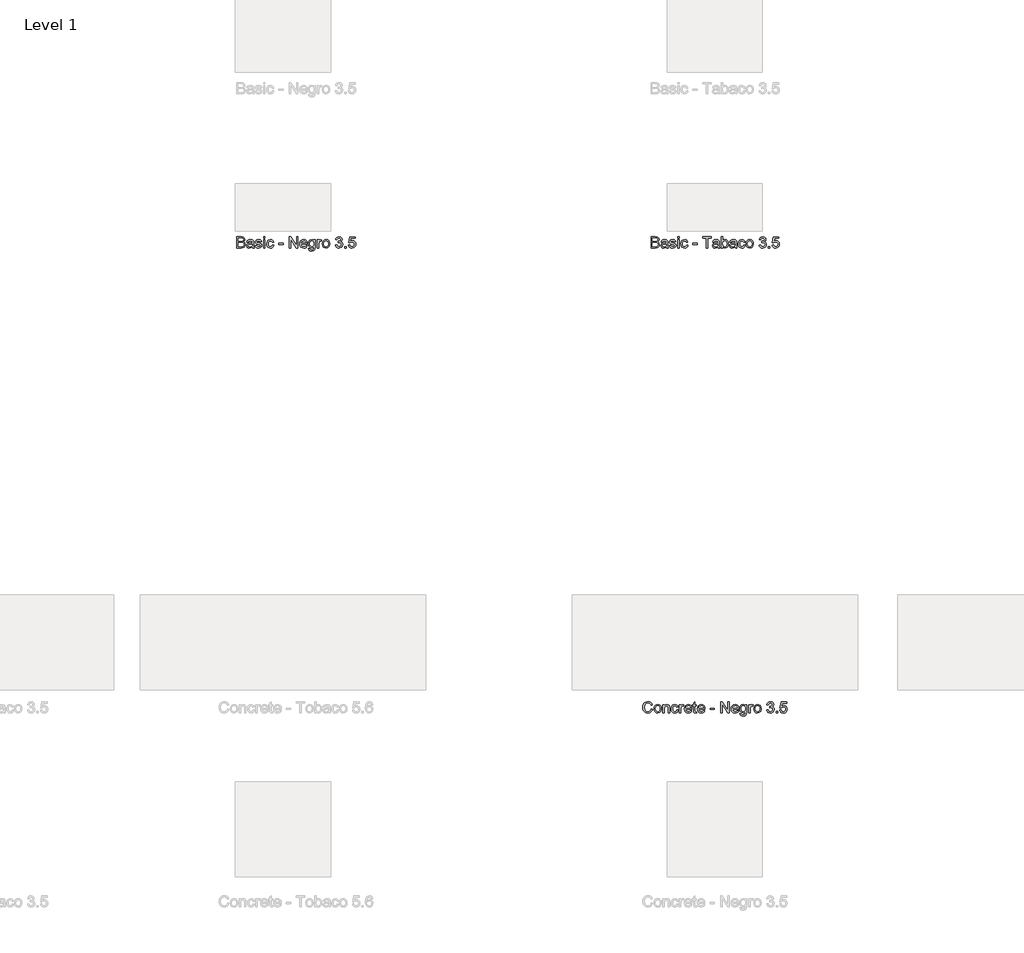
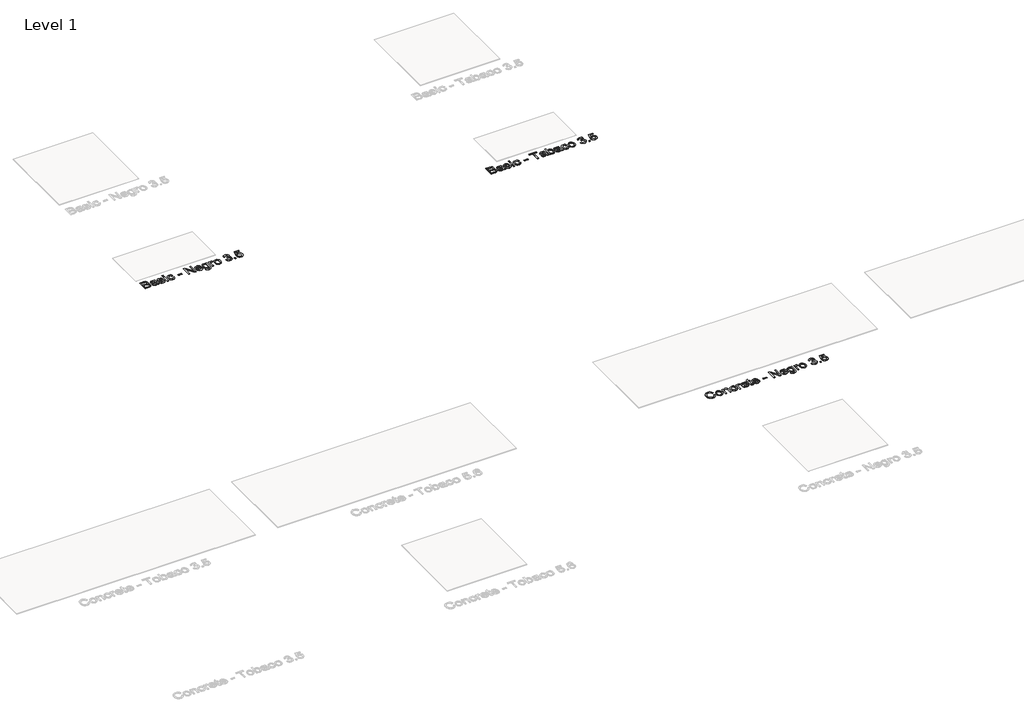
# One storey, part 56 of 80: 3 proxies.
"""IFC4 building model written with IfcOpenShell, lengths in millimetres."""

from ifc_helpers import new_model, si_unit, origin, origin_with_axes, place, context, project, spatial, polyline, outline, extrude, element, save

model = new_model("IFC4")

# Units and contexts
model_context = context("Model", 3, world=origin())
ifc_project = project(units=[si_unit("LENGTHUNIT", "METRE", prefix="MILLI")], contexts=[model_context])

# Site, building, storey
site = spatial("IfcSite", under=ifc_project)
building = spatial("IfcBuilding", under=site)
storey = spatial("IfcBuildingStorey", under=building, Name="Level 1", Elevation=0.0)

# Proxies
placement = place(None, origin())
element("IfcBuildingElementProxy", 1, Name="24\" Arial", ObjectType="24\" Arial", at=placement, inside=storey, context=model_context, shape_type="SweptSolid", body=[
    extrude(outline(polyline([(-7610.153031, 15638.3282285), (-7610.153031, 15756.4820747), (-7565.0664925, 15756.4820747), (-7542.9847617, 15753.0061131), (-7529.9463002, 15742.3186131), (-7525.2299541, 15727.2032285), (-7529.1963002, 15713.4003439), (-7541.1818771, 15702.9436131), (-7526.6289925, 15691.9243824), (-7521.5376464, 15673.5493824), (-7525.0136079, 15657.6695747), (-7533.6241848, 15646.3618824), (-7546.4751464, 15640.3618824), (-7565.4126464, 15638.3282285), (-7610.153031, 15638.3282285)]), holes=[polyline([(-7595.3838002, 15653.0974593), (-7565.0953387, 15653.0974593), (-7554.1338002, 15653.6743824), (-7544.8597617, 15656.8907285), (-7538.715531, 15663.4532285), (-7536.3068771, 15673.4051516), (-7539.1338002, 15684.8859208), (-7548.2924541, 15691.7368824), (-7566.5376464, 15693.7128439), (-7595.3838002, 15693.7128439), (-7595.3838002, 15653.0974593)]), polyline([(-7595.3838002, 15708.4820747), (-7568.4126464, 15708.4820747), (-7552.6626464, 15709.7513054), (-7543.1866848, 15715.2176516), (-7539.9991848, 15724.8378439), (-7542.9703387, 15734.4724593), (-7551.4799541, 15740.1695747), (-7570.4607233, 15741.7128439), (-7595.3838002, 15741.7128439), (-7595.3838002, 15708.4820747)])]), origin_with_axes(), (0.0, 0.0, 1.0), 2.0),
    extrude(outline(polyline([(-7447.6914925, 15649.4051516), (-7462.0136079, 15639.3955362), (-7477.8357233, 15636.4820747), (-7490.1782714, 15638.2344785), (-7499.2828387, 15643.4916901), (-7504.8970214, 15651.4748631), (-7506.7684156, 15661.4051516), (-7503.9414925, 15673.0878439), (-7496.5136079, 15681.5686131), (-7486.1722617, 15686.414767), (-7473.3934156, 15688.6359208), (-7447.778031, 15693.7128439), (-7447.6914925, 15697.0013054), (-7451.7588002, 15707.9051516), (-7468.0857233, 15712.1743824), (-7483.028031, 15709.3330362), (-7490.153031, 15699.2513054), (-7504.9222617, 15701.0974593), (-7498.5328387, 15715.5205362), (-7485.6674541, 15723.9724593), (-7466.1818771, 15726.9436131), (-7448.2828387, 15724.3186131), (-7438.1722617, 15717.727267), (-7433.6434156, 15707.7032285), (-7432.9222617, 15694.7801516), (-7432.9222617, 15676.4051516), (-7432.1722617, 15650.7464977), (-7429.2299541, 15638.3282285), (-7443.9991848, 15638.3282285), (-7447.6914925, 15649.4051516)]), holes=[polyline([(-7447.6914925, 15678.9436131), (-7471.5184156, 15674.414767), (-7484.2251464, 15672.0205362), (-7489.9799541, 15668.1263054), (-7491.9991848, 15662.4436131), (-7487.6001464, 15654.4532285), (-7474.6914925, 15651.2513054), (-7459.7491848, 15654.7849593), (-7450.1145694, 15663.3378439), (-7447.778031, 15674.7609208), (-7447.6914925, 15678.9436131)])]), origin_with_axes(), (0.0, 0.0, 1.0), 2.0),
    extrude(outline(polyline([(-7418.153031, 15664.1743824), (-7403.3838002, 15666.0205362), (-7396.5472617, 15655.0589977), (-7380.8838002, 15651.2513054), (-7365.8261079, 15654.7416901), (-7360.9222617, 15662.9339977), (-7365.8549541, 15669.5686131), (-7381.0568771, 15673.7801516), (-7403.2972617, 15681.0061131), (-7413.0039925, 15689.4436131), (-7416.3068771, 15701.3570747), (-7413.653031, 15712.3618824), (-7406.4126464, 15720.7705362), (-7397.0232233, 15725.1407285), (-7384.3164925, 15726.9436131), (-7366.3453387, 15724.0445747), (-7354.9222617, 15716.1984208), (-7349.8453387, 15702.9436131), (-7364.6145694, 15701.0974593), (-7370.1674541, 15709.2464977), (-7383.1626464, 15712.1743824), (-7397.2972617, 15709.3763054), (-7401.5376464, 15702.8570747), (-7399.778031, 15698.5589977), (-7394.2684156, 15695.2993824), (-7381.5472617, 15692.1551516), (-7359.8693771, 15685.2032285), (-7349.8020694, 15677.3282285), (-7346.153031, 15664.4916901), (-7350.4366848, 15650.3570747), (-7362.7972617, 15640.102267), (-7381.0857233, 15636.4820747), (-7395.9775502, 15638.227267), (-7406.8453387, 15643.4628439), (-7414.1001464, 15652.1311131), (-7418.153031, 15664.1743824)])), origin_with_axes(), (0.0, 0.0, 1.0), 2.0),
    extrude(outline(polyline([(-7329.5376464, 15638.3282285), (-7329.5376464, 15725.0974593), (-7314.7684156, 15725.0974593), (-7314.7684156, 15638.3282285), (-7329.5376464, 15638.3282285)])), origin_with_axes(), (0.0, 0.0, 1.0), 2.0),
    extrude(outline(polyline([(-7329.5376464, 15741.7128439), (-7329.5376464, 15756.4820747), (-7314.7684156, 15756.4820747), (-7314.7684156, 15741.7128439), (-7329.5376464, 15741.7128439)])), origin_with_axes(), (0.0, 0.0, 1.0), 2.0),
    extrude(outline(polyline([(-7237.2299541, 15669.7128439), (-7222.4607233, 15667.8666901), (-7226.5785117, 15654.7308727), (-7234.3164925, 15644.8041901), (-7244.9463002, 15638.5626035), (-7257.7395694, 15636.4820747), (-7273.449906, 15639.3847189), (-7285.7347617, 15648.0926516), (-7293.6638483, 15662.2236612), (-7296.3068771, 15681.3955362), (-7291.7924541, 15705.9291901), (-7286.0953387, 15715.1275074), (-7278.0328387, 15721.6936131), (-7257.9414925, 15726.9436131), (-7245.4619252, 15725.1407285), (-7235.4847617, 15719.7320747), (-7228.3273098, 15711.0061131), (-7224.3068771, 15699.2513054), (-7239.0761079, 15697.4051516), (-7245.9270694, 15708.4676516), (-7257.8261079, 15712.1743824), (-7267.3705791, 15710.3498631), (-7274.9463002, 15704.8763054), (-7279.8898098, 15695.4580362), (-7281.5376464, 15681.7993824), (-7279.9258675, 15667.9568343), (-7275.090531, 15658.5061131), (-7267.6518291, 15653.0650074), (-7258.2299541, 15651.2513054), (-7244.3116848, 15655.7801516), (-7237.2299541, 15669.7128439)])), origin_with_axes(), (0.0, 0.0, 1.0), 2.0),
    extrude(outline(polyline([(-7170.7684156, 15673.4051516), (-7170.7684156, 15688.1743824), (-7124.6145694, 15688.1743824), (-7124.6145694, 15673.4051516), (-7170.7684156, 15673.4051516)])), origin_with_axes(), (0.0, 0.0, 1.0), 2.0),
    extrude(outline(polyline([(-7059.9991848, 15638.3282285), (-7059.9991848, 15756.4820747), (-7044.1914925, 15756.4820747), (-6982.4607233, 15662.8763054), (-6982.4607233, 15756.4820747), (-6967.6914925, 15756.4820747), (-6967.6914925, 15638.3282285), (-6983.4991848, 15638.3282285), (-7045.2299541, 15731.9628439), (-7045.2299541, 15638.3282285), (-7059.9991848, 15638.3282285)])), origin_with_axes(), (0.0, 0.0, 1.0), 2.0),
    extrude(outline(polyline([(-6882.9414925, 15664.1743824), (-6868.4607233, 15662.3282285), (-6873.6782714, 15651.4171708), (-6882.0039925, 15643.2609208), (-6893.2503867, 15638.1767862), (-6907.2299541, 15636.4820747), (-6924.559281, 15639.4063535), (-6937.8934156, 15648.1791901), (-6946.3958194, 15662.2308727), (-6949.2299541, 15680.9916901), (-6946.3669733, 15700.383517), (-6937.778031, 15714.8859208), (-6924.6241848, 15723.9291901), (-6908.0664925, 15726.9436131), (-6892.0244252, 15723.9364016), (-6879.2059156, 15714.914767), (-6870.8008675, 15700.4412093), (-6867.9991848, 15681.0782285), (-6868.0857233, 15677.0974593), (-6934.4607233, 15677.0974593), (-6931.9042329, 15666.0421708), (-6925.965531, 15657.914767), (-6917.3946175, 15652.9171708), (-6906.9414925, 15651.2513054), (-6892.4607233, 15654.3378439), (-6882.9414925, 15664.1743824)]), holes=[polyline([(-6934.4607233, 15691.8666901), (-6882.7684156, 15691.8666901), (-6888.6818771, 15705.2513054), (-6897.2924541, 15710.4436131), (-6908.1241848, 15712.1743824), (-6926.3116848, 15706.6503439), (-6932.0340406, 15700.1924112), (-6934.4607233, 15691.8666901)])]), origin_with_axes(), (0.0, 0.0, 1.0), 2.0),
    extrude(outline(polyline([(-6856.9222617, 15630.9436131), (-6842.153031, 15629.0974593), (-6837.3645694, 15621.3089977), (-6823.028031, 15618.0205362), (-6807.9126464, 15621.7416901), (-6800.7011079, 15632.1839977), (-6799.6914925, 15649.4051516), (-6810.090531, 15641.0974593), (-6822.7684156, 15638.3282285), (-6837.9955791, 15641.5517862), (-6849.3501464, 15651.2224593), (-6856.4138483, 15665.4003439), (-6858.7684156, 15682.1455362), (-6854.5424541, 15705.0349593), (-6842.3116848, 15721.2320747), (-6823.4895694, 15726.9436131), (-6810.3140887, 15723.7128439), (-6799.6914925, 15714.0205362), (-6799.6914925, 15725.0974593), (-6784.9222617, 15725.0974593), (-6784.9222617, 15650.1839977), (-6788.9607233, 15621.4964977), (-6801.7539925, 15608.1551516), (-6823.3164925, 15603.2513054), (-6837.0580791, 15604.9784689), (-6847.8789925, 15610.1599593), (-6854.8200983, 15618.8101997), (-6856.9222617, 15630.9436131)]), holes=[polyline([(-6843.9991848, 15683.1551516), (-6842.4234637, 15669.6082766), (-6837.6963002, 15660.2945747), (-6830.5893291, 15654.8967381), (-6821.8741848, 15653.0974593), (-6813.2239444, 15654.8859208), (-6806.0809156, 15660.2513054), (-6801.2888483, 15669.446017), (-6799.6914925, 15682.7224593), (-6801.3357233, 15695.5265458), (-6806.2684156, 15704.7464977), (-6813.5160117, 15710.3174112), (-6822.1049541, 15712.1743824), (-6830.5388483, 15710.3462574), (-6837.6097617, 15704.8618824), (-6842.4018291, 15695.7789497), (-6843.9991848, 15683.1551516)])]), origin_with_axes(), (0.0, 0.0, 1.0), 2.0),
    extrude(outline(polyline([(-6762.7684156, 15638.3282285), (-6762.7684156, 15725.0974593), (-6749.8453387, 15725.0974593), (-6749.8453387, 15712.2609208), (-6740.6722617, 15724.0878439), (-6731.4414925, 15726.9436131), (-6716.6145694, 15722.3859208), (-6721.5472617, 15709.1455362), (-6731.9318771, 15712.1743824), (-6740.2828387, 15709.2609208), (-6745.6049541, 15701.1839977), (-6747.9991848, 15683.9339977), (-6747.9991848, 15638.3282285), (-6762.7684156, 15638.3282285)])), origin_with_axes(), (0.0, 0.0, 1.0), 2.0),
    extrude(outline(polyline([(-6711.0761079, 15681.7128439), (-6707.8813964, 15702.633517), (-6698.2972617, 15717.3378439), (-6686.4559156, 15724.5421708), (-6672.278031, 15726.9436131), (-6656.762406, 15724.0193343), (-6644.3693771, 15715.2464977), (-6636.2455791, 15701.3174112), (-6633.5376464, 15682.9243824), (-6638.3261079, 15656.6455362), (-6652.2732233, 15641.7753439), (-6672.278031, 15636.4820747), (-6687.981156, 15639.3955362), (-6700.3597617, 15648.1359208), (-6708.3970214, 15662.3570747), (-6711.0761079, 15681.7128439)]), holes=[polyline([(-6696.3068771, 15681.7416901), (-6694.5977425, 15668.3751035), (-6689.4703387, 15658.852267), (-6681.7539925, 15653.1515458), (-6672.278031, 15651.2513054), (-6662.8453387, 15653.1623631), (-6655.1434156, 15658.8955362), (-6650.0160117, 15668.5445747), (-6648.3068771, 15682.2032285), (-6650.0268291, 15695.180392), (-6655.1866848, 15704.5734208), (-6662.8994252, 15710.274142), (-6672.278031, 15712.1743824), (-6681.7539925, 15710.2813535), (-6689.4703387, 15704.602267), (-6694.5977425, 15695.1010651), (-6696.3068771, 15681.7416901)])]), origin_with_axes(), (0.0, 0.0, 1.0), 2.0),
    extrude(outline(polyline([(-6574.4607233, 15669.7128439), (-6559.6914925, 15671.5589977), (-6551.5424541, 15656.0109208), (-6536.2972617, 15651.2513054), (-6526.1722617, 15652.8883247), (-6518.3549541, 15657.7993824), (-6513.3573579, 15665.1263054), (-6511.6914925, 15674.0109208), (-6513.3429348, 15682.4448151), (-6518.2972617, 15689.2849593), (-6525.7972617, 15693.8174112), (-6535.0857233, 15695.3282285), (-6545.4414925, 15693.7128439), (-6543.7972617, 15708.4820747), (-6541.4318771, 15708.3089977), (-6524.6722617, 15712.5493824), (-6519.090531, 15717.9291901), (-6517.2299541, 15725.5878439), (-6522.6241848, 15737.1407285), (-6536.528031, 15741.7128439), (-6550.6049541, 15737.0974593), (-6557.8453387, 15723.2513054), (-6572.6145694, 15725.0974593), (-6568.2660117, 15738.3594785), (-6560.528031, 15748.2609208), (-6549.9414925, 15754.4267862), (-6537.0472617, 15756.4820747), (-6519.2347617, 15752.4291901), (-6506.7732233, 15741.352267), (-6502.4607233, 15726.4532285), (-6506.5568771, 15712.8378439), (-6518.6722617, 15703.0589977), (-6509.4270694, 15699.3234208), (-6502.5761079, 15692.9628439), (-6498.3357233, 15684.3234208), (-6496.9222617, 15673.7513054), (-6499.7491848, 15659.3570747), (-6508.2299541, 15647.3282285), (-6521.0304348, 15639.1936131), (-6536.8164925, 15636.4820747), (-6551.0953387, 15638.7969785), (-6562.7203387, 15645.7416901), (-6570.8044733, 15656.3642862), (-6574.4607233, 15669.7128439)])), origin_with_axes(), (0.0, 0.0, 1.0), 2.0),
    extrude(outline(polyline([(-6476.6145694, 15638.3282285), (-6476.6145694, 15653.0974593), (-6461.8453387, 15653.0974593), (-6461.8453387, 15638.3282285), (-6476.6145694, 15638.3282285)])), origin_with_axes(), (0.0, 0.0, 1.0), 2.0),
    extrude(outline(polyline([(-6437.8453387, 15669.7128439), (-6423.0761079, 15671.5589977), (-6415.6338002, 15656.3426516), (-6400.2011079, 15651.2513054), (-6389.6145694, 15653.0217381), (-6381.6818771, 15658.3330362), (-6376.7275502, 15666.5722189), (-6375.0761079, 15677.1263054), (-6376.6229829, 15687.0638054), (-6381.2636079, 15694.664767), (-6389.0340406, 15699.4892862), (-6399.9703387, 15701.0974593), (-6412.9366848, 15698.5301516), (-6421.2299541, 15691.8666901), (-6435.9991848, 15693.7128439), (-6423.0761079, 15754.6359208), (-6365.8453387, 15754.6359208), (-6365.8453387, 15739.8666901), (-6411.1338002, 15739.8666901), (-6417.4511079, 15707.3282285), (-6406.9006271, 15713.7320747), (-6395.8453387, 15715.8666901), (-6382.0460598, 15713.2200554), (-6370.590531, 15705.2801516), (-6362.8777906, 15693.1791901), (-6360.3068771, 15678.0493824), (-6362.621781, 15663.2801516), (-6369.5664925, 15650.6455362), (-6382.8645694, 15640.0229401), (-6400.2588002, 15636.4820747), (-6414.7648098, 15638.7573151), (-6426.3213002, 15645.5830362), (-6434.2431752, 15656.1659689), (-6437.8453387, 15669.7128439)])), origin_with_axes(), (0.0, 0.0, 1.0), 2.0),
])
element("IfcBuildingElementProxy", 2, Name="24\" Arial", ObjectType="24\" Arial", at=placement, inside=storey, context=model_context, shape_type="SweptSolid", body=[
    extrude(outline(polyline([(-3256.6145694, 15638.3282285), (-3256.6145694, 15756.4820747), (-3211.528031, 15756.4820747), (-3189.4463002, 15753.0061131), (-3176.4078387, 15742.3186131), (-3171.6914925, 15727.2032285), (-3175.6578387, 15713.4003439), (-3187.6434156, 15702.9436131), (-3173.090531, 15691.9243824), (-3167.9991848, 15673.5493824), (-3171.4751464, 15657.6695747), (-3180.0857233, 15646.3618824), (-3192.9366848, 15640.3618824), (-3211.8741848, 15638.3282285), (-3256.6145694, 15638.3282285)]), holes=[polyline([(-3241.8453387, 15653.0974593), (-3211.5568771, 15653.0974593), (-3200.5953387, 15653.6743824), (-3191.3213002, 15656.8907285), (-3185.1770694, 15663.4532285), (-3182.7684156, 15673.4051516), (-3185.5953387, 15684.8859208), (-3194.7539925, 15691.7368824), (-3212.9991848, 15693.7128439), (-3241.8453387, 15693.7128439), (-3241.8453387, 15653.0974593)]), polyline([(-3241.8453387, 15708.4820747), (-3214.8741848, 15708.4820747), (-3199.1241848, 15709.7513054), (-3189.6482233, 15715.2176516), (-3186.4607233, 15724.8378439), (-3189.4318771, 15734.4724593), (-3197.9414925, 15740.1695747), (-3216.9222617, 15741.7128439), (-3241.8453387, 15741.7128439), (-3241.8453387, 15708.4820747)])]), origin_with_axes(), (0.0, 0.0, 1.0), 2.0),
    extrude(outline(polyline([(-3094.153031, 15649.4051516), (-3108.4751464, 15639.3955362), (-3124.2972617, 15636.4820747), (-3136.6398098, 15638.2344785), (-3145.7443771, 15643.4916901), (-3151.3585598, 15651.4748631), (-3153.2299541, 15661.4051516), (-3150.403031, 15673.0878439), (-3142.9751464, 15681.5686131), (-3132.6338002, 15686.414767), (-3119.8549541, 15688.6359208), (-3094.2395694, 15693.7128439), (-3094.153031, 15697.0013054), (-3098.2203387, 15707.9051516), (-3114.5472617, 15712.1743824), (-3129.4895694, 15709.3330362), (-3136.6145694, 15699.2513054), (-3151.3838002, 15701.0974593), (-3144.9943771, 15715.5205362), (-3132.1289925, 15723.9724593), (-3112.6434156, 15726.9436131), (-3094.7443771, 15724.3186131), (-3084.6338002, 15717.727267), (-3080.1049541, 15707.7032285), (-3079.3838002, 15694.7801516), (-3079.3838002, 15676.4051516), (-3078.6338002, 15650.7464977), (-3075.6914925, 15638.3282285), (-3090.4607233, 15638.3282285), (-3094.153031, 15649.4051516)]), holes=[polyline([(-3094.153031, 15678.9436131), (-3117.9799541, 15674.414767), (-3130.6866848, 15672.0205362), (-3136.4414925, 15668.1263054), (-3138.4607233, 15662.4436131), (-3134.0616848, 15654.4532285), (-3121.153031, 15651.2513054), (-3106.2107233, 15654.7849593), (-3096.5761079, 15663.3378439), (-3094.2395694, 15674.7609208), (-3094.153031, 15678.9436131)])]), origin_with_axes(), (0.0, 0.0, 1.0), 2.0),
    extrude(outline(polyline([(-3064.6145694, 15664.1743824), (-3049.8453387, 15666.0205362), (-3043.0088002, 15655.0589977), (-3027.3453387, 15651.2513054), (-3012.2876464, 15654.7416901), (-3007.3838002, 15662.9339977), (-3012.3164925, 15669.5686131), (-3027.5184156, 15673.7801516), (-3049.7588002, 15681.0061131), (-3059.465531, 15689.4436131), (-3062.7684156, 15701.3570747), (-3060.1145694, 15712.3618824), (-3052.8741848, 15720.7705362), (-3043.4847617, 15725.1407285), (-3030.778031, 15726.9436131), (-3012.8068771, 15724.0445747), (-3001.3838002, 15716.1984208), (-2996.3068771, 15702.9436131), (-3011.0761079, 15701.0974593), (-3016.6289925, 15709.2464977), (-3029.6241848, 15712.1743824), (-3043.7588002, 15709.3763054), (-3047.9991848, 15702.8570747), (-3046.2395694, 15698.5589977), (-3040.7299541, 15695.2993824), (-3028.0088002, 15692.1551516), (-3006.3309156, 15685.2032285), (-2996.2636079, 15677.3282285), (-2992.6145694, 15664.4916901), (-2996.8982233, 15650.3570747), (-3009.2588002, 15640.102267), (-3027.5472617, 15636.4820747), (-3042.4390887, 15638.227267), (-3053.3068771, 15643.4628439), (-3060.5616848, 15652.1311131), (-3064.6145694, 15664.1743824)])), origin_with_axes(), (0.0, 0.0, 1.0), 2.0),
    extrude(outline(polyline([(-2975.9991848, 15638.3282285), (-2975.9991848, 15725.0974593), (-2961.2299541, 15725.0974593), (-2961.2299541, 15638.3282285), (-2975.9991848, 15638.3282285)])), origin_with_axes(), (0.0, 0.0, 1.0), 2.0),
    extrude(outline(polyline([(-2975.9991848, 15741.7128439), (-2975.9991848, 15756.4820747), (-2961.2299541, 15756.4820747), (-2961.2299541, 15741.7128439), (-2975.9991848, 15741.7128439)])), origin_with_axes(), (0.0, 0.0, 1.0), 2.0),
    extrude(outline(polyline([(-2883.6914925, 15669.7128439), (-2868.9222617, 15667.8666901), (-2873.0400502, 15654.7308727), (-2880.778031, 15644.8041901), (-2891.4078387, 15638.5626035), (-2904.2011079, 15636.4820747), (-2919.9114444, 15639.3847189), (-2932.1963002, 15648.0926516), (-2940.1253867, 15662.2236612), (-2942.7684156, 15681.3955362), (-2938.2539925, 15705.9291901), (-2932.5568771, 15715.1275074), (-2924.4943771, 15721.6936131), (-2904.403031, 15726.9436131), (-2891.9234637, 15725.1407285), (-2881.9463002, 15719.7320747), (-2874.7888483, 15711.0061131), (-2870.7684156, 15699.2513054), (-2885.5376464, 15697.4051516), (-2892.3886079, 15708.4676516), (-2904.2876464, 15712.1743824), (-2913.8321175, 15710.3498631), (-2921.4078387, 15704.8763054), (-2926.3513483, 15695.4580362), (-2927.9991848, 15681.7993824), (-2926.387406, 15667.9568343), (-2921.5520694, 15658.5061131), (-2914.1133675, 15653.0650074), (-2904.6914925, 15651.2513054), (-2890.7732233, 15655.7801516), (-2883.6914925, 15669.7128439)])), origin_with_axes(), (0.0, 0.0, 1.0), 2.0),
    extrude(outline(polyline([(-2817.2299541, 15673.4051516), (-2817.2299541, 15688.1743824), (-2771.0761079, 15688.1743824), (-2771.0761079, 15673.4051516), (-2817.2299541, 15673.4051516)])), origin_with_axes(), (0.0, 0.0, 1.0), 2.0),
    extrude(outline(polyline([(-2676.9222617, 15638.3282285), (-2676.9222617, 15741.7128439), (-2715.6914925, 15741.7128439), (-2715.6914925, 15756.4820747), (-2623.3838002, 15756.4820747), (-2623.3838002, 15741.7128439), (-2662.153031, 15741.7128439), (-2662.153031, 15638.3282285), (-2676.9222617, 15638.3282285)])), origin_with_axes(), (0.0, 0.0, 1.0), 2.0),
    extrude(outline(polyline([(-2553.2299541, 15649.4051516), (-2567.5520694, 15639.3955362), (-2583.3741848, 15636.4820747), (-2595.7167329, 15638.2344785), (-2604.8213002, 15643.4916901), (-2610.4354829, 15651.4748631), (-2612.3068771, 15661.4051516), (-2609.4799541, 15673.0878439), (-2602.0520694, 15681.5686131), (-2591.7107233, 15686.414767), (-2578.9318771, 15688.6359208), (-2553.3164925, 15693.7128439), (-2553.2299541, 15697.0013054), (-2557.2972617, 15707.9051516), (-2573.6241848, 15712.1743824), (-2588.5664925, 15709.3330362), (-2595.6914925, 15699.2513054), (-2610.4607233, 15701.0974593), (-2604.0713002, 15715.5205362), (-2591.2059156, 15723.9724593), (-2571.7203387, 15726.9436131), (-2553.8213002, 15724.3186131), (-2543.7107233, 15717.727267), (-2539.1818771, 15707.7032285), (-2538.4607233, 15694.7801516), (-2538.4607233, 15676.4051516), (-2537.7107233, 15650.7464977), (-2534.7684156, 15638.3282285), (-2549.5376464, 15638.3282285), (-2553.2299541, 15649.4051516)]), holes=[polyline([(-2553.2299541, 15678.9436131), (-2577.0568771, 15674.414767), (-2589.7636079, 15672.0205362), (-2595.5184156, 15668.1263054), (-2597.5376464, 15662.4436131), (-2593.1386079, 15654.4532285), (-2580.2299541, 15651.2513054), (-2565.2876464, 15654.7849593), (-2555.653031, 15663.3378439), (-2553.3164925, 15674.7609208), (-2553.2299541, 15678.9436131)])]), origin_with_axes(), (0.0, 0.0, 1.0), 2.0),
    extrude(outline(polyline([(-2503.3838002, 15638.3282285), (-2518.153031, 15638.3282285), (-2518.153031, 15756.4820747), (-2503.3838002, 15756.4820747), (-2503.3838002, 15712.664767), (-2493.0424541, 15723.3739016), (-2480.1914925, 15726.9436131), (-2465.3934156, 15723.727267), (-2453.9126464, 15714.6839977), (-2446.8597617, 15700.6214977), (-2444.3068771, 15683.0109208), (-2446.949906, 15663.2945747), (-2454.8789925, 15648.6263054), (-2466.5148098, 15639.5181324), (-2480.278031, 15636.4820747), (-2493.4102425, 15640.3979401), (-2503.3838002, 15652.1455362), (-2503.3838002, 15638.3282285)]), holes=[polyline([(-2503.3838002, 15682.3186131), (-2499.3453387, 15661.664767), (-2491.6073579, 15653.8546708), (-2481.5472617, 15651.2513054), (-2473.0232233, 15653.1695747), (-2465.7395694, 15658.9243824), (-2460.7419733, 15668.4796708), (-2459.0761079, 15681.7993824), (-2460.6734637, 15695.3138054), (-2465.465531, 15704.7609208), (-2472.5220214, 15710.321017), (-2480.9126464, 15712.1743824), (-2489.4366848, 15710.2561131), (-2496.7203387, 15704.5013054), (-2501.7179348, 15695.1190939), (-2503.3838002, 15682.3186131)])]), origin_with_axes(), (0.0, 0.0, 1.0), 2.0),
    extrude(outline(polyline([(-2372.3068771, 15649.4051516), (-2386.6289925, 15639.3955362), (-2402.4511079, 15636.4820747), (-2414.793656, 15638.2344785), (-2423.8982233, 15643.4916901), (-2429.512406, 15651.4748631), (-2431.3838002, 15661.4051516), (-2428.5568771, 15673.0878439), (-2421.1289925, 15681.5686131), (-2410.7876464, 15686.414767), (-2398.0088002, 15688.6359208), (-2372.3934156, 15693.7128439), (-2372.3068771, 15697.0013054), (-2376.3741848, 15707.9051516), (-2392.7011079, 15712.1743824), (-2407.6434156, 15709.3330362), (-2414.7684156, 15699.2513054), (-2429.5376464, 15701.0974593), (-2423.1482233, 15715.5205362), (-2410.2828387, 15723.9724593), (-2390.7972617, 15726.9436131), (-2372.8982233, 15724.3186131), (-2362.7876464, 15717.727267), (-2358.2588002, 15707.7032285), (-2357.5376464, 15694.7801516), (-2357.5376464, 15676.4051516), (-2356.7876464, 15650.7464977), (-2353.8453387, 15638.3282285), (-2368.6145694, 15638.3282285), (-2372.3068771, 15649.4051516)]), holes=[polyline([(-2372.3068771, 15678.9436131), (-2396.1338002, 15674.414767), (-2408.840531, 15672.0205362), (-2414.5953387, 15668.1263054), (-2416.6145694, 15662.4436131), (-2412.215531, 15654.4532285), (-2399.3068771, 15651.2513054), (-2384.3645694, 15654.7849593), (-2374.7299541, 15663.3378439), (-2372.3934156, 15674.7609208), (-2372.3068771, 15678.9436131)])]), origin_with_axes(), (0.0, 0.0, 1.0), 2.0),
    extrude(outline(polyline([(-2281.8453387, 15669.7128439), (-2267.0761079, 15667.8666901), (-2271.1938964, 15654.7308727), (-2278.9318771, 15644.8041901), (-2289.5616848, 15638.5626035), (-2302.3549541, 15636.4820747), (-2318.0652906, 15639.3847189), (-2330.3501464, 15648.0926516), (-2338.2792329, 15662.2236612), (-2340.9222617, 15681.3955362), (-2336.4078387, 15705.9291901), (-2330.7107233, 15715.1275074), (-2322.6482233, 15721.6936131), (-2302.5568771, 15726.9436131), (-2290.0773098, 15725.1407285), (-2280.1001464, 15719.7320747), (-2272.9426944, 15711.0061131), (-2268.9222617, 15699.2513054), (-2283.6914925, 15697.4051516), (-2290.5424541, 15708.4676516), (-2302.4414925, 15712.1743824), (-2311.9859637, 15710.3498631), (-2319.5616848, 15704.8763054), (-2324.5051944, 15695.4580362), (-2326.153031, 15681.7993824), (-2324.5412521, 15667.9568343), (-2319.7059156, 15658.5061131), (-2312.2672137, 15653.0650074), (-2302.8453387, 15651.2513054), (-2288.9270694, 15655.7801516), (-2281.8453387, 15669.7128439)])), origin_with_axes(), (0.0, 0.0, 1.0), 2.0),
    extrude(outline(polyline([(-2257.8453387, 15681.7128439), (-2254.6506271, 15702.633517), (-2245.0664925, 15717.3378439), (-2233.2251464, 15724.5421708), (-2219.0472617, 15726.9436131), (-2203.5316367, 15724.0193343), (-2191.1386079, 15715.2464977), (-2183.0148098, 15701.3174112), (-2180.3068771, 15682.9243824), (-2185.0953387, 15656.6455362), (-2199.0424541, 15641.7753439), (-2219.0472617, 15636.4820747), (-2234.7503867, 15639.3955362), (-2247.1289925, 15648.1359208), (-2255.1662521, 15662.3570747), (-2257.8453387, 15681.7128439)]), holes=[polyline([(-2243.0761079, 15681.7416901), (-2241.3669733, 15668.3751035), (-2236.2395694, 15658.852267), (-2228.5232233, 15653.1515458), (-2219.0472617, 15651.2513054), (-2209.6145694, 15653.1623631), (-2201.9126464, 15658.8955362), (-2196.7852425, 15668.5445747), (-2195.0761079, 15682.2032285), (-2196.7960598, 15695.180392), (-2201.9559156, 15704.5734208), (-2209.668656, 15710.274142), (-2219.0472617, 15712.1743824), (-2228.5232233, 15710.2813535), (-2236.2395694, 15704.602267), (-2241.3669733, 15695.1010651), (-2243.0761079, 15681.7416901)])]), origin_with_axes(), (0.0, 0.0, 1.0), 2.0),
    extrude(outline(polyline([(-2121.2299541, 15669.7128439), (-2106.4607233, 15671.5589977), (-2098.3116848, 15656.0109208), (-2083.0664925, 15651.2513054), (-2072.9414925, 15652.8883247), (-2065.1241848, 15657.7993824), (-2060.1265887, 15665.1263054), (-2058.4607233, 15674.0109208), (-2060.1121656, 15682.4448151), (-2065.0664925, 15689.2849593), (-2072.5664925, 15693.8174112), (-2081.8549541, 15695.3282285), (-2092.2107233, 15693.7128439), (-2090.5664925, 15708.4820747), (-2088.2011079, 15708.3089977), (-2071.4414925, 15712.5493824), (-2065.8597617, 15717.9291901), (-2063.9991848, 15725.5878439), (-2069.3934156, 15737.1407285), (-2083.2972617, 15741.7128439), (-2097.3741848, 15737.0974593), (-2104.6145694, 15723.2513054), (-2119.3838002, 15725.0974593), (-2115.0352425, 15738.3594785), (-2107.2972617, 15748.2609208), (-2096.7107233, 15754.4267862), (-2083.8164925, 15756.4820747), (-2066.0039925, 15752.4291901), (-2053.5424541, 15741.352267), (-2049.2299541, 15726.4532285), (-2053.3261079, 15712.8378439), (-2065.4414925, 15703.0589977), (-2056.1963002, 15699.3234208), (-2049.3453387, 15692.9628439), (-2045.1049541, 15684.3234208), (-2043.6914925, 15673.7513054), (-2046.5184156, 15659.3570747), (-2054.9991848, 15647.3282285), (-2067.7996656, 15639.1936131), (-2083.5857233, 15636.4820747), (-2097.8645694, 15638.7969785), (-2109.4895694, 15645.7416901), (-2117.5737041, 15656.3642862), (-2121.2299541, 15669.7128439)])), origin_with_axes(), (0.0, 0.0, 1.0), 2.0),
    extrude(outline(polyline([(-2023.3838002, 15638.3282285), (-2023.3838002, 15653.0974593), (-2008.6145694, 15653.0974593), (-2008.6145694, 15638.3282285), (-2023.3838002, 15638.3282285)])), origin_with_axes(), (0.0, 0.0, 1.0), 2.0),
    extrude(outline(polyline([(-1984.6145694, 15669.7128439), (-1969.8453387, 15671.5589977), (-1962.403031, 15656.3426516), (-1946.9703387, 15651.2513054), (-1936.3838002, 15653.0217381), (-1928.4511079, 15658.3330362), (-1923.496781, 15666.5722189), (-1921.8453387, 15677.1263054), (-1923.3922137, 15687.0638054), (-1928.0328387, 15694.664767), (-1935.8032714, 15699.4892862), (-1946.7395694, 15701.0974593), (-1959.7059156, 15698.5301516), (-1967.9991848, 15691.8666901), (-1982.7684156, 15693.7128439), (-1969.8453387, 15754.6359208), (-1912.6145694, 15754.6359208), (-1912.6145694, 15739.8666901), (-1957.903031, 15739.8666901), (-1964.2203387, 15707.3282285), (-1953.6698579, 15713.7320747), (-1942.6145694, 15715.8666901), (-1928.8152906, 15713.2200554), (-1917.3597617, 15705.2801516), (-1909.6470214, 15693.1791901), (-1907.0761079, 15678.0493824), (-1909.3910117, 15663.2801516), (-1916.3357233, 15650.6455362), (-1929.6338002, 15640.0229401), (-1947.028031, 15636.4820747), (-1961.5340406, 15638.7573151), (-1973.090531, 15645.5830362), (-1981.012406, 15656.1659689), (-1984.6145694, 15669.7128439)])), origin_with_axes(), (0.0, 0.0, 1.0), 2.0),
])
element("IfcBuildingElementProxy", 3, Name="24\" Arial", ObjectType="24\" Arial", at=placement, inside=storey, context=model_context, shape_type="SweptSolid", body=[
    extrude(outline(polyline([(-3254.7684156, 10790.728562), (-3239.9991848, 10786.9208697), (-3246.8140887, 10769.7105332), (-3257.5088002, 10757.1372159), (-3271.5568771, 10749.4461101), (-3288.4318771, 10746.8824082), (-3305.5628867, 10748.822312), (-3319.1674541, 10754.6420236), (-3329.5953387, 10764.1396197), (-3337.1963002, 10777.1131774), (-3341.8369252, 10792.3655813), (-3343.3838002, 10808.6997159), (-3341.6350021, 10825.9280813), (-3336.3886079, 10840.8054851), (-3327.918656, 10852.8595717), (-3316.4991848, 10861.6179851), (-3302.9559156, 10866.9509178), (-3288.1145694, 10868.728562), (-3271.9210598, 10866.4280813), (-3258.5328387, 10859.526639), (-3248.3681752, 10848.4497159), (-3241.8453387, 10833.6227928), (-3256.6145694, 10830.103562), (-3261.7347617, 10840.8739947), (-3268.7299541, 10848.2622159), (-3277.6866848, 10852.5350524), (-3288.6914925, 10853.9593313), (-3301.3765887, 10852.3800044), (-3311.7972617, 10847.6420236), (-3319.7047137, 10840.2429851), (-3324.8501464, 10830.6804851), (-3328.6145694, 10808.728562), (-3324.1578387, 10783.2862544), (-3318.4607233, 10773.7850524), (-3310.2828387, 10767.0314467), (-3289.903031, 10761.651639), (-3277.574906, 10763.4833697), (-3267.3020694, 10768.978562), (-3259.5460598, 10778.0795236), (-3254.7684156, 10790.728562)])), origin_with_axes(), (0.0, 0.0, 1.0), 2.0),
    extrude(outline(polyline([(-3225.2299541, 10792.1131774), (-3222.0352425, 10813.0338505), (-3212.4511079, 10827.7381774), (-3200.6097617, 10834.9425044), (-3186.4318771, 10837.3439467), (-3170.9162521, 10834.4196678), (-3158.5232233, 10825.6468313), (-3150.3994252, 10811.7177447), (-3147.6914925, 10793.3247159), (-3152.4799541, 10767.0458697), (-3166.4270694, 10752.1756774), (-3186.4318771, 10746.8824082), (-3202.1350021, 10749.7958697), (-3214.5136079, 10758.5362544), (-3222.5508675, 10772.7574082), (-3225.2299541, 10792.1131774)]), holes=[polyline([(-3210.4607233, 10792.1420236), (-3208.7515887, 10778.775437), (-3203.6241848, 10769.2526005), (-3195.9078387, 10763.5518794), (-3186.4318771, 10761.651639), (-3176.9991848, 10763.5626967), (-3169.2972617, 10769.2958697), (-3164.1698579, 10778.9449082), (-3162.4607233, 10792.603562), (-3164.1806752, 10805.5807255), (-3169.340531, 10814.9737544), (-3177.0532714, 10820.6744755), (-3186.4318771, 10822.5747159), (-3195.9078387, 10820.681687), (-3203.6241848, 10815.0026005), (-3208.7515887, 10805.5013986), (-3210.4607233, 10792.1420236)])]), origin_with_axes(), (0.0, 0.0, 1.0), 2.0),
    extrude(outline(polyline([(-3131.0761079, 10748.728562), (-3131.0761079, 10835.4977928), (-3116.3068771, 10835.4977928), (-3116.3068771, 10823.3824082), (-3105.0136079, 10833.853562), (-3089.5953387, 10837.3439467), (-3075.6482233, 10834.5314467), (-3066.1289925, 10827.1468313), (-3061.7011079, 10816.2862544), (-3060.9222617, 10802.0074082), (-3060.9222617, 10748.728562), (-3075.6914925, 10748.728562), (-3075.6914925, 10800.0170236), (-3077.3934156, 10813.0843313), (-3083.4078387, 10819.9929851), (-3093.5472617, 10822.5747159), (-3109.5713002, 10816.776639), (-3114.6229829, 10808.3751967), (-3116.3068771, 10794.7670236), (-3116.3068771, 10748.728562), (-3131.0761079, 10748.728562)])), origin_with_axes(), (0.0, 0.0, 1.0), 2.0),
    extrude(outline(polyline([(-2985.2299541, 10780.1131774), (-2970.4607233, 10778.2670236), (-2974.5785117, 10765.1312063), (-2982.3164925, 10755.2045236), (-2992.9463002, 10748.962937), (-3005.7395694, 10746.8824082), (-3021.449906, 10749.7850524), (-3033.7347617, 10758.4929851), (-3041.6638483, 10772.6239947), (-3044.3068771, 10791.7958697), (-3039.7924541, 10816.3295236), (-3034.0953387, 10825.5278409), (-3026.0328387, 10832.0939467), (-3005.9414925, 10837.3439467), (-2993.4619252, 10835.541062), (-2983.4847617, 10830.1324082), (-2976.3273098, 10821.4064467), (-2972.3068771, 10809.651639), (-2987.0761079, 10807.8054851), (-2993.9270694, 10818.8679851), (-3005.8261079, 10822.5747159), (-3015.3705791, 10820.7501967), (-3022.9463002, 10815.276639), (-3027.8898098, 10805.8583697), (-3029.5376464, 10792.1997159), (-3027.9258675, 10778.3571678), (-3023.090531, 10768.9064467), (-3015.6518291, 10763.4653409), (-3006.2299541, 10761.651639), (-2992.3116848, 10766.1804851), (-2985.2299541, 10780.1131774)])), origin_with_axes(), (0.0, 0.0, 1.0), 2.0),
    extrude(outline(polyline([(-2957.5376464, 10748.728562), (-2957.5376464, 10835.4977928), (-2944.6145694, 10835.4977928), (-2944.6145694, 10822.6612544), (-2935.4414925, 10834.4881774), (-2926.2107233, 10837.3439467), (-2911.3838002, 10832.7862544), (-2916.3164925, 10819.5458697), (-2926.7011079, 10822.5747159), (-2935.0520694, 10819.6612544), (-2940.3741848, 10811.5843313), (-2942.7684156, 10794.3343313), (-2942.7684156, 10748.728562), (-2957.5376464, 10748.728562)])), origin_with_axes(), (0.0, 0.0, 1.0), 2.0),
    extrude(outline(polyline([(-2841.403031, 10774.5747159), (-2826.9222617, 10772.728562), (-2832.1398098, 10761.8175044), (-2840.465531, 10753.6612544), (-2851.7119252, 10748.5771197), (-2865.6914925, 10746.8824082), (-2883.0208194, 10749.806687), (-2896.3549541, 10758.5795236), (-2904.8573579, 10772.6312063), (-2907.6914925, 10791.3920236), (-2904.8285117, 10810.7838505), (-2896.2395694, 10825.2862544), (-2883.0857233, 10834.3295236), (-2866.528031, 10837.3439467), (-2850.4859637, 10834.3367351), (-2837.6674541, 10825.3151005), (-2829.262406, 10810.8415428), (-2826.4607233, 10791.478562), (-2826.5472617, 10787.4977928), (-2892.9222617, 10787.4977928), (-2890.3657714, 10776.4425044), (-2884.4270694, 10768.3151005), (-2875.856156, 10763.3175044), (-2865.403031, 10761.651639), (-2850.9222617, 10764.7381774), (-2841.403031, 10774.5747159)]), holes=[polyline([(-2892.9222617, 10802.2670236), (-2841.2299541, 10802.2670236), (-2847.1434156, 10815.651639), (-2855.7539925, 10820.8439467), (-2866.5857233, 10822.5747159), (-2884.7732233, 10817.0506774), (-2890.4955791, 10810.5927447), (-2892.9222617, 10802.2670236)])]), origin_with_axes(), (0.0, 0.0, 1.0), 2.0),
    extrude(outline(polyline([(-2780.3068771, 10761.0458697), (-2778.4607233, 10748.2958697), (-2789.5088002, 10746.8824082), (-2801.8838002, 10749.3343313), (-2808.0568771, 10755.7670236), (-2809.8453387, 10772.526639), (-2809.8453387, 10820.728562), (-2820.9222617, 10820.728562), (-2820.9222617, 10835.4977928), (-2809.8453387, 10835.4977928), (-2809.8453387, 10856.5843313), (-2795.0761079, 10865.2670236), (-2795.0761079, 10835.4977928), (-2780.3068771, 10835.4977928), (-2780.3068771, 10820.728562), (-2795.0761079, 10820.728562), (-2795.0761079, 10772.9593313), (-2794.2972617, 10765.3439467), (-2791.7732233, 10762.6468313), (-2786.7395694, 10761.651639), (-2780.3068771, 10761.0458697)])), origin_with_axes(), (0.0, 0.0, 1.0), 2.0),
    extrude(outline(polyline([(-2704.7876464, 10774.5747159), (-2690.3068771, 10772.728562), (-2695.5244252, 10761.8175044), (-2703.8501464, 10753.6612544), (-2715.0965406, 10748.5771197), (-2729.0761079, 10746.8824082), (-2746.4054348, 10749.806687), (-2759.7395694, 10758.5795236), (-2768.2419733, 10772.6312063), (-2771.0761079, 10791.3920236), (-2768.2131271, 10810.7838505), (-2759.6241848, 10825.2862544), (-2746.4703387, 10834.3295236), (-2729.9126464, 10837.3439467), (-2713.8705791, 10834.3367351), (-2701.0520694, 10825.3151005), (-2692.6470214, 10810.8415428), (-2689.8453387, 10791.478562), (-2689.9318771, 10787.4977928), (-2756.3068771, 10787.4977928), (-2753.7503867, 10776.4425044), (-2747.8116848, 10768.3151005), (-2739.2407714, 10763.3175044), (-2728.7876464, 10761.651639), (-2714.3068771, 10764.7381774), (-2704.7876464, 10774.5747159)]), holes=[polyline([(-2756.3068771, 10802.2670236), (-2704.6145694, 10802.2670236), (-2710.528031, 10815.651639), (-2719.1386079, 10820.8439467), (-2729.9703387, 10822.5747159), (-2748.1578387, 10817.0506774), (-2753.8801944, 10810.5927447), (-2756.3068771, 10802.2670236)])]), origin_with_axes(), (0.0, 0.0, 1.0), 2.0),
    extrude(outline(polyline([(-2636.3068771, 10783.8054851), (-2636.3068771, 10798.5747159), (-2590.153031, 10798.5747159), (-2590.153031, 10783.8054851), (-2636.3068771, 10783.8054851)])), origin_with_axes(), (0.0, 0.0, 1.0), 2.0),
    extrude(outline(polyline([(-2525.5376464, 10748.728562), (-2525.5376464, 10866.8824082), (-2509.7299541, 10866.8824082), (-2447.9991848, 10773.276639), (-2447.9991848, 10866.8824082), (-2433.2299541, 10866.8824082), (-2433.2299541, 10748.728562), (-2449.0376464, 10748.728562), (-2510.7684156, 10842.3631774), (-2510.7684156, 10748.728562), (-2525.5376464, 10748.728562)])), origin_with_axes(), (0.0, 0.0, 1.0), 2.0),
    extrude(outline(polyline([(-2348.4799541, 10774.5747159), (-2333.9991848, 10772.728562), (-2339.2167329, 10761.8175044), (-2347.5424541, 10753.6612544), (-2358.7888483, 10748.5771197), (-2372.7684156, 10746.8824082), (-2390.0977425, 10749.806687), (-2403.4318771, 10758.5795236), (-2411.934281, 10772.6312063), (-2414.7684156, 10791.3920236), (-2411.9054348, 10810.7838505), (-2403.3164925, 10825.2862544), (-2390.1626464, 10834.3295236), (-2373.6049541, 10837.3439467), (-2357.5628867, 10834.3367351), (-2344.7443771, 10825.3151005), (-2336.3393291, 10810.8415428), (-2333.5376464, 10791.478562), (-2333.6241848, 10787.4977928), (-2399.9991848, 10787.4977928), (-2397.4426944, 10776.4425044), (-2391.5039925, 10768.3151005), (-2382.9330791, 10763.3175044), (-2372.4799541, 10761.651639), (-2357.9991848, 10764.7381774), (-2348.4799541, 10774.5747159)]), holes=[polyline([(-2399.9991848, 10802.2670236), (-2348.3068771, 10802.2670236), (-2354.2203387, 10815.651639), (-2362.8309156, 10820.8439467), (-2373.6626464, 10822.5747159), (-2391.8501464, 10817.0506774), (-2397.5725021, 10810.5927447), (-2399.9991848, 10802.2670236)])]), origin_with_axes(), (0.0, 0.0, 1.0), 2.0),
    extrude(outline(polyline([(-2322.4607233, 10741.3439467), (-2307.6914925, 10739.4977928), (-2302.903031, 10731.7093313), (-2288.5664925, 10728.4208697), (-2273.4511079, 10732.1420236), (-2266.2395694, 10742.5843313), (-2265.2299541, 10759.8054851), (-2275.6289925, 10751.4977928), (-2288.3068771, 10748.728562), (-2303.5340406, 10751.9521197), (-2314.8886079, 10761.6227928), (-2321.9523098, 10775.8006774), (-2324.3068771, 10792.5458697), (-2320.0809156, 10815.4352928), (-2307.8501464, 10831.6324082), (-2289.028031, 10837.3439467), (-2275.8525502, 10834.1131774), (-2265.2299541, 10824.4208697), (-2265.2299541, 10835.4977928), (-2250.4607233, 10835.4977928), (-2250.4607233, 10760.5843313), (-2254.4991848, 10731.8968313), (-2267.2924541, 10718.5554851), (-2288.8549541, 10713.651639), (-2302.5965406, 10715.3788024), (-2313.4174541, 10720.5602928), (-2320.3585598, 10729.2105332), (-2322.4607233, 10741.3439467)]), holes=[polyline([(-2309.5376464, 10793.5554851), (-2307.9619252, 10780.0086101), (-2303.2347617, 10770.6949082), (-2296.1277906, 10765.2970717), (-2287.4126464, 10763.4977928), (-2278.762406, 10765.2862544), (-2271.6193771, 10770.651639), (-2266.8273098, 10779.8463505), (-2265.2299541, 10793.1227928), (-2266.8741848, 10805.9268794), (-2271.8068771, 10815.1468313), (-2279.0544733, 10820.7177447), (-2287.6434156, 10822.5747159), (-2296.0773098, 10820.7465909), (-2303.1482233, 10815.2622159), (-2307.9402906, 10806.1792832), (-2309.5376464, 10793.5554851)])]), origin_with_axes(), (0.0, 0.0, 1.0), 2.0),
    extrude(outline(polyline([(-2228.3068771, 10748.728562), (-2228.3068771, 10835.4977928), (-2215.3838002, 10835.4977928), (-2215.3838002, 10822.6612544), (-2206.2107233, 10834.4881774), (-2196.9799541, 10837.3439467), (-2182.153031, 10832.7862544), (-2187.0857233, 10819.5458697), (-2197.4703387, 10822.5747159), (-2205.8213002, 10819.6612544), (-2211.1434156, 10811.5843313), (-2213.5376464, 10794.3343313), (-2213.5376464, 10748.728562), (-2228.3068771, 10748.728562)])), origin_with_axes(), (0.0, 0.0, 1.0), 2.0),
    extrude(outline(polyline([(-2176.6145694, 10792.1131774), (-2173.4198579, 10813.0338505), (-2163.8357233, 10827.7381774), (-2151.9943771, 10834.9425044), (-2137.8164925, 10837.3439467), (-2122.3008675, 10834.4196678), (-2109.9078387, 10825.6468313), (-2101.7840406, 10811.7177447), (-2099.0761079, 10793.3247159), (-2103.8645694, 10767.0458697), (-2117.8116848, 10752.1756774), (-2137.8164925, 10746.8824082), (-2153.5196175, 10749.7958697), (-2165.8982233, 10758.5362544), (-2173.9354829, 10772.7574082), (-2176.6145694, 10792.1131774)]), holes=[polyline([(-2161.8453387, 10792.1420236), (-2160.1362041, 10778.775437), (-2155.0088002, 10769.2526005), (-2147.2924541, 10763.5518794), (-2137.8164925, 10761.651639), (-2128.3838002, 10763.5626967), (-2120.6818771, 10769.2958697), (-2115.5544733, 10778.9449082), (-2113.8453387, 10792.603562), (-2115.5652906, 10805.5807255), (-2120.7251464, 10814.9737544), (-2128.4378867, 10820.6744755), (-2137.8164925, 10822.5747159), (-2147.2924541, 10820.681687), (-2155.0088002, 10815.0026005), (-2160.1362041, 10805.5013986), (-2161.8453387, 10792.1420236)])]), origin_with_axes(), (0.0, 0.0, 1.0), 2.0),
    extrude(outline(polyline([(-2039.9991848, 10780.1131774), (-2025.2299541, 10781.9593313), (-2017.0809156, 10766.4112544), (-2001.8357233, 10761.651639), (-1991.7107233, 10763.2886582), (-1983.8934156, 10768.1997159), (-1978.8958194, 10775.526639), (-1977.2299541, 10784.4112544), (-1978.8813964, 10792.8451486), (-1983.8357233, 10799.6852928), (-1991.3357233, 10804.2177447), (-2000.6241848, 10805.728562), (-2010.9799541, 10804.1131774), (-2009.3357233, 10818.8824082), (-2006.9703387, 10818.7093313), (-1990.2107233, 10822.9497159), (-1984.6289925, 10828.3295236), (-1982.7684156, 10835.9881774), (-1988.1626464, 10847.541062), (-2002.0664925, 10852.1131774), (-2016.1434156, 10847.4977928), (-2023.3838002, 10833.651639), (-2038.153031, 10835.4977928), (-2033.8044733, 10848.759812), (-2026.0664925, 10858.6612544), (-2015.4799541, 10864.8271197), (-2002.5857233, 10866.8824082), (-1984.7732233, 10862.8295236), (-1972.3116848, 10851.7526005), (-1967.9991848, 10836.853562), (-1972.0953387, 10823.2381774), (-1984.2107233, 10813.4593313), (-1974.965531, 10809.7237544), (-1968.1145694, 10803.3631774), (-1963.8741848, 10794.7237544), (-1962.4607233, 10784.151639), (-1965.2876464, 10769.7574082), (-1973.7684156, 10757.728562), (-1986.5688964, 10749.5939467), (-2002.3549541, 10746.8824082), (-2016.6338002, 10749.197312), (-2028.2588002, 10756.1420236), (-2036.3429348, 10766.7646197), (-2039.9991848, 10780.1131774)])), origin_with_axes(), (0.0, 0.0, 1.0), 2.0),
    extrude(outline(polyline([(-1942.153031, 10748.728562), (-1942.153031, 10763.4977928), (-1927.3838002, 10763.4977928), (-1927.3838002, 10748.728562), (-1942.153031, 10748.728562)])), origin_with_axes(), (0.0, 0.0, 1.0), 2.0),
    extrude(outline(polyline([(-1903.3838002, 10780.1131774), (-1888.6145694, 10781.9593313), (-1881.1722617, 10766.7429851), (-1865.7395694, 10761.651639), (-1855.153031, 10763.4220717), (-1847.2203387, 10768.7333697), (-1842.2660117, 10776.9725524), (-1840.6145694, 10787.526639), (-1842.1614444, 10797.464139), (-1846.8020694, 10805.0651005), (-1854.5725021, 10809.8896197), (-1865.5088002, 10811.4977928), (-1878.4751464, 10808.9304851), (-1886.7684156, 10802.2670236), (-1901.5376464, 10804.1131774), (-1888.6145694, 10865.0362544), (-1831.3838002, 10865.0362544), (-1831.3838002, 10850.2670236), (-1876.6722617, 10850.2670236), (-1882.9895694, 10817.728562), (-1872.4390887, 10824.1324082), (-1861.3838002, 10826.2670236), (-1847.5845214, 10823.620389), (-1836.1289925, 10815.6804851), (-1828.4162521, 10803.5795236), (-1825.8453387, 10788.4497159), (-1828.1602425, 10773.6804851), (-1835.1049541, 10761.0458697), (-1848.403031, 10750.4232736), (-1865.7972617, 10746.8824082), (-1880.3032714, 10749.1576486), (-1891.8597617, 10755.9833697), (-1899.7816367, 10766.5663024), (-1903.3838002, 10780.1131774)])), origin_with_axes(), (0.0, 0.0, 1.0), 2.0),
])

save(model, "model.ifc")
